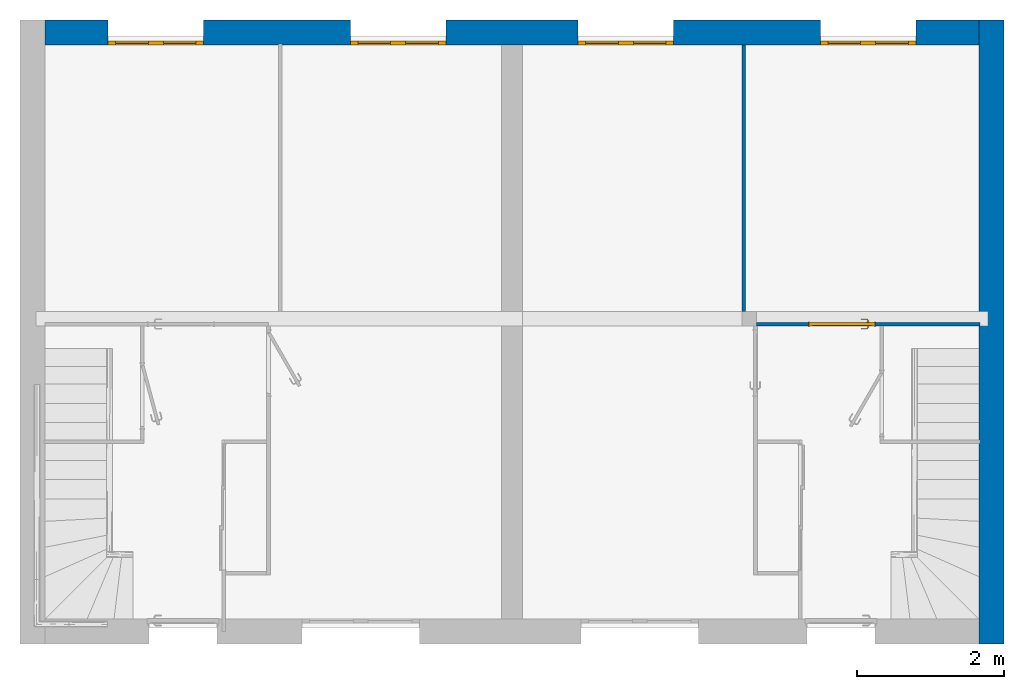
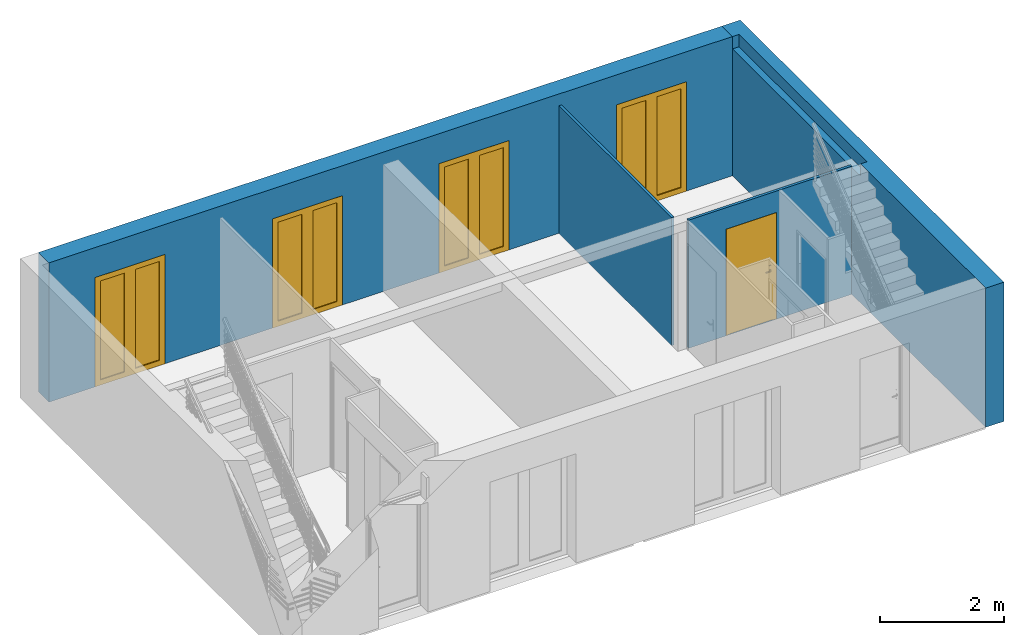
# One storey, part 5 of 9: 5 doors, 4 walls, 6 openings.
"""IFC2X3 building model written with IfcOpenShell, lengths in metres."""

from ifc_helpers import new_model, entity, si_unit, converted_unit, derived_unit, direction, frame, frame_2d, origin, origin_2d_with_axis, place, context, subcontext, project, spatial, polyline, rectangle, outline, extrude, faceted_brep, source, transform, mapped, material, material_list, layer, layer_set, layer_usage, type_object, type_shapes, element, fill, save


model = new_model("IFC2X3")

# Units and contexts
model_context = context("Model", 3, precision=1e-05, world=origin(), true_north=direction((6.12303176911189e-17, 1.0)))
body_context = subcontext(model_context, "Body", "Model", "MODEL_VIEW")
ifc_project = project(units=[si_unit("LENGTHUNIT", "METRE"), si_unit("AREAUNIT", "SQUARE_METRE"), si_unit("VOLUMEUNIT", "CUBIC_METRE"), converted_unit("PLANEANGLEUNIT", "DEGREE", entity("IfcRatioMeasure", 0.0174532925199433), si_unit("PLANEANGLEUNIT", "RADIAN"), dimensions=[0, 0, 0, 0, 0, 0, 0]), si_unit("MASSUNIT", "GRAM", prefix="KILO"), si_unit("TIMEUNIT", "SECOND"), si_unit("FREQUENCYUNIT", "HERTZ"), si_unit("THERMODYNAMICTEMPERATUREUNIT", "DEGREE_CELSIUS"), derived_unit("THERMALTRANSMITTANCEUNIT", [(si_unit("MASSUNIT", "GRAM", prefix="KILO"), 1), (si_unit("THERMODYNAMICTEMPERATUREUNIT", "KELVIN"), -1), (si_unit("TIMEUNIT", "SECOND"), -3)]), derived_unit("VOLUMETRICFLOWRATEUNIT", [(si_unit("LENGTHUNIT", "METRE"), 3), (si_unit("TIMEUNIT", "SECOND"), -1)]), si_unit("ELECTRICCURRENTUNIT", "AMPERE"), si_unit("ELECTRICVOLTAGEUNIT", "VOLT"), si_unit("POWERUNIT", "WATT"), si_unit("FORCEUNIT", "NEWTON", prefix="KILO"), si_unit("ILLUMINANCEUNIT", "LUX"), si_unit("LUMINOUSFLUXUNIT", "LUMEN"), si_unit("LUMINOUSINTENSITYUNIT", "CANDELA"), derived_unit("USERDEFINED", [(si_unit("MASSUNIT", "GRAM", prefix="KILO"), -1), (si_unit("LENGTHUNIT", "METRE"), -2), (si_unit("TIMEUNIT", "SECOND"), 3), (si_unit("LUMINOUSFLUXUNIT", "LUMEN"), 1)]), derived_unit("LINEARVELOCITYUNIT", [(si_unit("LENGTHUNIT", "METRE"), 1), (si_unit("TIMEUNIT", "SECOND"), -1)]), si_unit("PRESSUREUNIT", "PASCAL"), derived_unit("USERDEFINED", [(si_unit("LENGTHUNIT", "METRE"), -2), (si_unit("MASSUNIT", "GRAM", prefix="KILO"), 1), (si_unit("TIMEUNIT", "SECOND"), -2)])], contexts=[model_context])

# Site, building, storey
site_placement = place(None, origin())
site = spatial("IfcSite", under=ifc_project, at=site_placement, Name="Surface", CompositionType="ELEMENT")
building_placement = place(site_placement, origin())
building = spatial("IfcBuilding", under=site, at=building_placement, CompositionType="ELEMENT")
storey_placement = place(building_placement, origin())
storey = spatial("IfcBuildingStorey", under=building, at=storey_placement, Name="Rez de chaussée", CompositionType="ELEMENT", Elevation=0.0)

# Wall
ifc_material_1 = material(Name="Maçonnerie - Isolant(1)")
ifc_layer_1 = layer(ifc_material_1, 0.05)
ifc_layer_set_1 = layer_set([ifc_layer_1], Name="Mur de base:Int. plâtre 50 mm")
ifc_layer_usage_1 = layer_usage(ifc_layer_set_1, "AXIS2", "NEGATIVE", 0.025)
wall_type_1 = type_object("IfcWallType", Name="Mur de base:Int. plâtre 50 mm", PredefinedType="STANDARD", material=ifc_layer_set_1)
wall_1_placement = place(storey_placement, frame((-1.78108881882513, 1.71425578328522, -0.00999999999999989), z_axis=(0.0, 0.0, 1.0), x_axis=(0.0, 1.0, 0.0)))
element("IfcWallStandardCase", 1, at=wall_1_placement, inside=storey, type_object=wall_type_1, material=ifc_layer_usage_1, Name="Mur de base:Int. plâtre 50 mm", ObjectType="Mur de base:Int. plâtre 50 mm", context=body_context, shape_type="SweptSolid", body=[
    extrude(rectangle(XDim=3.63, YDim=0.05, at=frame_2d((1.815, 0.0), x_axis=(-1.0, 0.0))), origin(), (0.0, 0.0, 1.0), 2.52),
])

# Wall, opening, door
ifc_layer_usage_2 = layer_usage(ifc_layer_set_1, "AXIS2", "NEGATIVE", 0.025)
wall_2_placement = place(storey_placement, frame((-1.60608881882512, 1.53925578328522, -0.00999999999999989)))
wall_2 = element("IfcWallStandardCase", 2, at=wall_2_placement, inside=storey, type_object=wall_type_1, material=ifc_layer_usage_2, Name="Mur de base:Int. plâtre 50 mm", ObjectType="Mur de base:Int. plâtre 50 mm", context=body_context, shape_type="SweptSolid", body=[
    extrude(rectangle(XDim=3.03999999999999, YDim=0.05, at=frame_2d((1.52, 0.0), x_axis=(-1.0, 0.0))), origin(), (0.0, 0.0, 1.0), 2.52),
])
opening_1_placement = place(wall_2_placement, frame((0.714999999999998, -0.025, 0.00999999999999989)))
opening_1 = element("IfcOpeningElement", 3, at=opening_1_placement, cuts=wall_2, Name="Int. Simple:PP (0.83m x 2.04m):1", ObjectType="Opening", context=body_context, shape_type="SweptSolid", body=[
    extrude(rectangle(XDim=2.075, YDim=0.9, at=frame_2d((1.0375, 0.45), x_axis=(1.0, 0.0))), frame((0.0, 0.0, 0.0), z_axis=(0.0, 1.0, 0.0), x_axis=(0.0, 0.0, 1.0)), (0.0, 0.0, 1.0), 0.05),
])
ifc_material_2 = material(Name="Finition Peinture - Blanc satiné")
ifc_material_3 = material(Name="Bois - Panneau de porte")
ifc_material_4 = material(Name="Bois - Cadre de porte")
ifc_material_list_1 = material_list([ifc_material_2, ifc_material_3, ifc_material_4])
ifc_material_list_2 = material_list([ifc_material_2, ifc_material_3, ifc_material_4])
door_style_1 = type_object("IfcDoorStyle", Name="PP (0.83m x 2.04m)", ConstructionType="NOTDEFINED", OperationType="SINGLE_SWING_LEFT", ParameterTakesPrecedence=False, Sizeable=False, material=ifc_material_list_2)
shared_shape_1 = source(origin(), body_context, "Body", "Brep", [
    faceted_brep([(0.105352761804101, -0.00500000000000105, 0.866003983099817), (0.115, -0.00500000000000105, 0.870000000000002), (0.114999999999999, -0.00500000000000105, 1.08), (0.1053527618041, -0.00500000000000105, 1.08399601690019), (0.0949999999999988, -0.00500000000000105, 1.08535898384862), (0.0846472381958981, -0.00500000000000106, 1.08399601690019), (0.0749999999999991, -0.00500000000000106, 1.08), (0.0750000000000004, -0.00500000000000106, 0.870000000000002), (0.0846472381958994, -0.00500000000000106, 0.866003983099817), (0.0950000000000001, -0.00500000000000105, 0.86464101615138), (0.1053527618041, 0.0, 1.08399601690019), (0.114999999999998, 0.0, 1.08), (0.115, 0.0, 0.870000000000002), (0.105352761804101, 0.0, 0.866003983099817), (0.0950000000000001, 0.0, 0.86464101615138), (0.0846472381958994, 0.0, 0.866003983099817), (0.0749999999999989, 0.0, 0.870000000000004), (0.0749999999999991, 0.0, 1.08), (0.0846472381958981, 0.0, 1.08399601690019), (0.0949999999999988, 0.0, 1.08535898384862)], [[[0, 1, 2, 3, 4, 5, 6, 7, 8, 9]], [[10, 11, 12, 13, 14, 15, 16, 17, 18, 19]], [[16, 15, 8, 7]], [[8, 15, 14, 9]], [[14, 13, 0, 9]], [[13, 12, 1, 0]], [[2, 1, 12, 11]], [[11, 10, 3, 2]], [[3, 10, 19, 4]], [[19, 18, 5, 4]], [[18, 17, 6, 5]], [[7, 6, 17, 16]]]),
    faceted_brep([(0.105352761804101, 0.0399999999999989, 0.866003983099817), (0.115, 0.0399999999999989, 0.870000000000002), (0.114999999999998, 0.0399999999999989, 1.08), (0.105352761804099, 0.0399999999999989, 1.08399601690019), (0.0949999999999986, 0.0399999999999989, 1.08535898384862), (0.084647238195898, 0.0399999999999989, 1.08399601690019), (0.0749999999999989, 0.0399999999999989, 1.08), (0.0750000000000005, 0.0399999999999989, 0.870000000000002), (0.0846472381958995, 0.0399999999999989, 0.866003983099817), (0.0950000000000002, 0.0399999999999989, 0.86464101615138), (0.105352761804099, 0.0449999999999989, 1.08399601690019), (0.114999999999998, 0.0449999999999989, 1.08), (0.115, 0.0449999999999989, 0.870000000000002), (0.105352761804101, 0.0449999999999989, 0.866003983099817), (0.0950000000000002, 0.0449999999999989, 0.86464101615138), (0.0846472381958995, 0.0449999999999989, 0.866003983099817), (0.0749999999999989, 0.0449999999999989, 0.870000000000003), (0.0749999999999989, 0.0449999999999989, 1.08), (0.084647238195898, 0.0449999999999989, 1.08399601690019), (0.0949999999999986, 0.0449999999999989, 1.08535898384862)], [[[0, 1, 2, 3, 4, 5, 6, 7, 8, 9]], [[10, 11, 12, 13, 14, 15, 16, 17, 18, 19]], [[11, 10, 3, 2]], [[3, 10, 19, 4]], [[19, 18, 5, 4]], [[18, 17, 6, 5]], [[7, 6, 17, 16]], [[16, 15, 8, 7]], [[8, 15, 14, 9]], [[14, 13, 0, 9]], [[13, 12, 1, 0]], [[2, 1, 12, 11]]]),
    faceted_brep([(0.0929747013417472, -0.00500000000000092, 1.00778044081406), (0.0970252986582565, -0.0050000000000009, 1.00778044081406), (0.101000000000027, -0.00500000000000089, 1.00699999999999), (0.101000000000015, -0.00500000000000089, 0.993000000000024), (0.0970252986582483, -0.0050000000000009, 0.992219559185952), (0.0929747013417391, -0.00500000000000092, 0.99221955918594), (0.0889999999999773, -0.00500000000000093, 0.992999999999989), (0.0889999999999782, -0.00500000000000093, 1.007), (0.0889999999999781, -0.0326509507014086, 1.007), (0.092974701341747, -0.0310045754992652, 1.00778044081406), (0.10902358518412, -0.0470534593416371, 1.00778044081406), (0.110701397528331, -0.0430028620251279, 1.00778044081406), (0.0970252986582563, -0.0293267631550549, 1.00778044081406), (0.101000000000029, -0.0276803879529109, 1.007), (0.101000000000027, -0.0276803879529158, 0.993000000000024), (0.0970252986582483, -0.0293267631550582, 0.992219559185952), (0.110701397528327, -0.0430028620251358, 0.992219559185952), (0.109023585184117, -0.047053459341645, 0.99221955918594), (0.0929747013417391, -0.0310045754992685, 0.99221955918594), (0.0889999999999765, -0.0326509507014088, 0.992999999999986), (0.107377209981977, -0.0510281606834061, 1.007), (0.112347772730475, -0.0390281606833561, 1.007), (0.112347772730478, -0.0390281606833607, 0.993000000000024), (0.107377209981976, -0.0510281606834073, 0.992999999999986), (0.195018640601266, -0.0510281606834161, 0.992999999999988), (0.195018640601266, -0.0470534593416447, 0.99221955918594), (0.195018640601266, -0.0430028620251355, 0.992219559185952), (0.195018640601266, -0.039028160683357, 0.993000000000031), (0.195018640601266, -0.0390281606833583, 1.007), (0.195018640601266, -0.0430028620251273, 1.00778044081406), (0.195018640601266, -0.0470534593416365, 1.00778044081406), (0.195018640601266, -0.0510281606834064, 1.00699999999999), (0.147307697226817, -0.0510281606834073, 1.007), (0.152860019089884, -0.045028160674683, 1.0078786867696), (0.15368320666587, -0.039028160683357, 1.007), (0.153683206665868, -0.0390281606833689, 0.993000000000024), (0.152860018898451, -0.0450281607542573, 0.992121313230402), (0.147307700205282, -0.0510281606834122, 0.992999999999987)], [[[0, 1, 2, 3, 4, 5, 6, 7]], [[8, 9, 0, 7]], [[9, 10, 11, 12, 1, 0]], [[12, 13, 2, 1]], [[3, 2, 13, 14]], [[14, 15, 4, 3]], [[15, 16, 17, 18, 5, 4]], [[18, 19, 6, 5]], [[7, 6, 19, 8]], [[20, 10, 9, 8]], [[11, 21, 13, 12]], [[14, 13, 21, 22]], [[22, 16, 15, 14]], [[17, 23, 19, 18]], [[8, 19, 23, 20]], [[24, 25, 26, 27, 28, 29, 30, 31]], [[32, 30, 33]], [[31, 30, 32]], [[10, 20, 32]], [[33, 34, 11]], [[21, 11, 34]], [[34, 29, 28]], [[30, 29, 33]], [[29, 34, 33]], [[10, 32, 33]], [[10, 33, 11]], [[22, 21, 34, 28, 27, 35]], [[35, 26, 36]], [[37, 36, 25]], [[22, 35, 16]], [[35, 27, 26]], [[24, 37, 25]], [[23, 17, 37]], [[37, 17, 36]], [[17, 16, 36]], [[16, 35, 36]], [[25, 36, 26]], [[20, 23, 37, 24, 31, 32]]]),
    faceted_brep([(0.0929747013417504, 0.0449999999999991, 1.00778044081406), (0.0889999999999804, 0.044999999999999, 1.007), (0.0889999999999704, 0.044999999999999, 0.992999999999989), (0.0929747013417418, 0.0449999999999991, 0.99221955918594), (0.0970252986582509, 0.0449999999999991, 0.992219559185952), (0.10100000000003, 0.0449999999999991, 0.993000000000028), (0.101000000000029, 0.0449999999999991, 1.007), (0.0970252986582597, 0.0449999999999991, 1.00778044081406), (0.10100000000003, 0.067485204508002, 0.993000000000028), (0.10100000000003, 0.0674852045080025, 1.007), (0.0970252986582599, 0.0691315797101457, 1.00778044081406), (0.110838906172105, 0.0829451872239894, 1.00778044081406), (0.109161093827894, 0.0869957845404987, 1.00778044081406), (0.0929747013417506, 0.070809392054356, 1.00778044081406), (0.0889999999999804, 0.0724557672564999, 1.007), (0.0889999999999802, 0.072455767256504, 0.992999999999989), (0.0929747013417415, 0.0708093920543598, 0.99221955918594), (0.109161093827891, 0.0869957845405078, 0.99221955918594), (0.110838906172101, 0.0829451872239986, 0.992219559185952), (0.0970252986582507, 0.0691315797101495, 0.992219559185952), (0.112485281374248, 0.0789704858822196, 0.993000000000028), (0.112485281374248, 0.0789704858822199, 1.007), (0.107514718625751, 0.0909704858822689, 1.007), (0.107514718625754, 0.090970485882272, 0.992999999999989), (0.195045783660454, 0.0789704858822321, 0.993000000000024), (0.195045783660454, 0.0829451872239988, 0.992219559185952), (0.195045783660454, 0.086995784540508, 0.99221955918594), (0.195045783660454, 0.0909704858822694, 0.992999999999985), (0.195045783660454, 0.0909704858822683, 1.007), (0.195045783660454, 0.0869957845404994, 1.00778044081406), (0.195045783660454, 0.0829451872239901, 1.00778044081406), (0.195045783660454, 0.0789704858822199, 1.007), (0.153765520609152, 0.0789704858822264, 0.993000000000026), (0.153765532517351, 0.0789704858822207, 1.007), (0.152942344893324, 0.0849704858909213, 1.0078786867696), (0.147445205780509, 0.0909704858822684, 1.007), (0.147445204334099, 0.0909704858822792, 0.992999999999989), (0.152942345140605, 0.0849704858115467, 0.992121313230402)], [[[0, 1, 2, 3, 4, 5, 6, 7]], [[6, 5, 8, 9]], [[9, 10, 7, 6]], [[10, 11, 12, 13, 0, 7]], [[13, 14, 1, 0]], [[2, 1, 14, 15]], [[15, 16, 3, 2]], [[16, 17, 18, 19, 4, 3]], [[19, 8, 5, 4]], [[9, 8, 20, 21]], [[21, 11, 10, 9]], [[12, 22, 14, 13]], [[15, 14, 22, 23]], [[23, 17, 16, 15]], [[18, 20, 8, 19]], [[24, 25, 26, 27, 28, 29, 30, 31]], [[21, 20, 32, 24, 31, 33]], [[33, 30, 34]], [[35, 34, 29]], [[21, 33, 11]], [[33, 31, 30]], [[28, 35, 29]], [[22, 12, 35]], [[35, 12, 34]], [[12, 11, 34]], [[11, 33, 34]], [[29, 34, 30]], [[22, 35, 28, 27, 36, 23]], [[36, 26, 37]], [[27, 26, 36]], [[17, 23, 36]], [[37, 32, 18]], [[20, 18, 32]], [[32, 25, 24]], [[26, 25, 37]], [[25, 32, 37]], [[17, 36, 37]], [[17, 37, 18]]]),
    faceted_brep([(0.034999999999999, 0.04, 2.04), (0.865, 0.04, 2.04), (0.864999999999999, 0.04, 0.0), (0.034999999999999, 0.04, 0.0), (0.034999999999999, 0.0, 2.04), (0.034999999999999, 0.0, 0.0), (0.864999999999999, 0.0, 0.0), (0.865, 0.0, 2.04)], [[[0, 1, 2, 3]], [[4, 5, 6, 7]], [[1, 0, 4, 7]], [[2, 1, 7, 6]], [[3, 2, 6, 5]], [[0, 3, 5, 4]]]),
    faceted_brep([(0.0, 0.0, 0.0), (0.0, 0.050000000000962, 0.0), (0.0499999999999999, 0.050000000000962, 0.0), (0.0499999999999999, 0.040000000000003, 0.0), (0.0349999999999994, 0.040000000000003, 0.0), (0.0349999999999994, 0.0, 0.0), (0.0, 0.0, 2.07500000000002), (0.0, 0.050000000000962, 2.07500000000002), (0.900000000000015, 0.050000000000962, 2.07500000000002), (0.900000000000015, 0.050000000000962, 0.0), (0.85, 0.050000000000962, 0.0), (0.85, 0.050000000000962, 2.025), (0.0500000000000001, 0.050000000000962, 2.025), (0.05, 0.040000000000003, 2.025), (0.85, 0.040000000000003, 2.025), (0.85, 0.040000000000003, 0.0), (0.865, 0.040000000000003, 0.0), (0.865, 0.040000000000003, 2.04), (0.0349999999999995, 0.040000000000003, 2.04), (0.0349999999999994, 0.0, 2.04), (0.865, 0.0, 2.04), (0.865, 0.0, 0.0), (0.900000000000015, 0.0, 0.0), (0.900000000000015, 0.0, 2.07500000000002)], [[[0, 1, 2, 3, 4, 5]], [[1, 0, 6, 7]], [[2, 1, 7, 8, 9, 10, 11, 12]], [[3, 2, 12, 13]], [[4, 3, 13, 14, 15, 16, 17, 18]], [[5, 4, 18, 19]], [[0, 5, 19, 20, 21, 22, 23, 6]], [[8, 23, 22, 9]], [[22, 21, 16, 15, 10, 9]], [[14, 11, 10, 15]], [[20, 17, 16, 21]], [[7, 6, 23, 8]], [[13, 12, 11, 14]], [[19, 18, 17, 20]]]),
    faceted_brep([(0.0149999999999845, 0.050000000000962, 0.0), (-0.0150000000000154, 0.050000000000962, 0.0), (-0.0150000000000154, 0.055000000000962, 0.0), (0.0149999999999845, 0.055000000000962, 0.0), (0.0149999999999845, 0.050000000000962, 2.06000000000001), (0.884999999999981, 0.050000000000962, 2.06000000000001), (0.88499999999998, 0.050000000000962, 0.0), (0.91499999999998, 0.050000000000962, 0.0), (0.91499999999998, 0.050000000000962, 2.09000000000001), (-0.0150000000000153, 0.050000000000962, 2.09000000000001), (-0.0150000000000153, 0.055000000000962, 2.09000000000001), (0.91499999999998, 0.055000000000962, 2.09000000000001), (0.91499999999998, 0.055000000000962, 0.0), (0.88499999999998, 0.055000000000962, 0.0), (0.88499999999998, 0.055000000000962, 2.06000000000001), (0.0149999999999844, 0.055000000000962, 2.06000000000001)], [[[0, 1, 2, 3]], [[1, 0, 4, 5, 6, 7, 8, 9]], [[2, 1, 9, 10]], [[3, 2, 10, 11, 12, 13, 14, 15]], [[0, 3, 15, 4]], [[6, 13, 12, 7]], [[5, 14, 13, 6]], [[11, 8, 7, 12]], [[10, 9, 8, 11]], [[4, 15, 14, 5]]]),
    faceted_brep([(-0.0150000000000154, -0.005, 0.0), (0.0149999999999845, -0.005, 0.0), (0.0149999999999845, -0.005, 2.06000000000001), (0.884999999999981, -0.005, 2.06000000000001), (0.88499999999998, -0.005, 0.0), (0.91499999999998, -0.005, 0.0), (0.91499999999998, -0.005, 2.09000000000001), (-0.0150000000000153, -0.005, 2.09000000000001), (-0.0150000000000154, 0.0, 0.0), (-0.0150000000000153, 0.0, 2.09000000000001), (0.0149999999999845, 0.0, 0.0), (0.91499999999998, 0.0, 2.09000000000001), (0.91499999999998, 0.0, 0.0), (0.88499999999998, 0.0, 0.0), (0.88499999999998, 0.0, 2.06000000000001), (0.0149999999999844, 0.0, 2.06000000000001)], [[[0, 1, 2, 3, 4, 5, 6, 7]], [[8, 0, 7, 9]], [[10, 8, 9, 11, 12, 13, 14, 15]], [[1, 10, 15, 2]], [[3, 14, 13, 4]], [[11, 6, 5, 12]], [[9, 7, 6, 11]], [[2, 15, 14, 3]], [[4, 13, 12, 5]], [[1, 0, 8, 10]]]),
])
type_shapes(door_style_1, [shared_shape_1])
door_1_placement = place(opening_1_placement, frame((0.9, 0.0499999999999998, 0.0), z_axis=(0.0, 0.0, 1.0), x_axis=(-1.0, 0.0, 0.0)))
door_1 = element("IfcDoor", 4, at=door_1_placement, inside=storey, type_object=door_style_1, material=ifc_material_list_1, Name="Int. Simple:PP (0.83m x 2.04m)", ObjectType="PP (0.83m x 2.04m)", OverallHeight=2.075, OverallWidth=0.9, context=body_context, shape_type="MappedRepresentation", body=[
    mapped(shared_shape_1, transform((0.0, 0.0, 0.0), scale=1.0)),
])
fill(opening_1, door_1)

# Wall, opening
ifc_material_5 = material(Name="Maçonnerie - Enduit")
ifc_layer_2 = layer(ifc_material_5, 0.02)
ifc_material_6 = material(Name="Maçonnerie - Parpaing")
ifc_layer_3 = layer(ifc_material_6, 0.2)
ifc_material_7 = material(Name="Maçonnerie - Isolant")
ifc_layer_4 = layer(ifc_material_7, 0.11)
ifc_material_8 = material(Name="Maçonnerie - Isolant 1")
ifc_layer_5 = layer(ifc_material_8, 0.01)
ifc_layer_set_2 = layer_set([ifc_layer_2, ifc_layer_3, ifc_layer_4, ifc_layer_5], Name="Mur de base:Mur de base Ext. Parpaing 20 + Isolant 12")
ifc_layer_usage_3 = layer_usage(ifc_layer_set_2, "AXIS2", "NEGATIVE", 0.17)
wall_type_2 = type_object("IfcWallType", Name="Mur de base:Mur de base Ext. Parpaing 20 + Isolant 12", PredefinedType="STANDARD", material=ifc_layer_set_2)
wall_3_placement = place(storey_placement, frame((1.59391118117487, 5.68425578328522, 0.0), z_axis=(0.0, 0.0, 1.0), x_axis=(0.0, -1.0, 0.0)))
wall_3 = element("IfcWallStandardCase", 5, at=wall_3_placement, inside=storey, type_object=wall_type_2, material=ifc_layer_usage_3, Name="Mur de base:Mur de base Ext. Parpaing 20 + Isolant 12", ObjectType="Mur de base:Mur de base Ext. Parpaing 20 + Isolant 12", context=body_context, shape_type="SweptSolid", body=[
    extrude(rectangle(XDim=8.50000000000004, YDim=0.34, at=frame_2d((4.25000000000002, 0.0), x_axis=(-1.0, 0.0))), origin(), (0.0, 0.0, 1.0), 2.74),
])
opening_2_placement = place(wall_3_placement, frame((8.50000000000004, -0.17, 2.498)))
element("IfcOpeningElement", 6, at=opening_2_placement, cuts=wall_3, Name="Mur de base:Mur de base Ext. Parpaing 20 + Isolant 12", ObjectType="Recess", context=body_context, shape_type="Brep", body=[
    faceted_brep([(-4.03171265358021, 0.0, 8.91925297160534), (-4.03171265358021, 0.12, 8.91925297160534), (-8.16, 0.12, 8.91925297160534), (-8.16, 0.0, 8.91925297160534), (-4.03171265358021, 0.0, 0.0), (-8.16, 0.0, 0.0), (-8.16, 0.12, 0.0), (-4.03171265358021, 0.12, 0.0), (-4.03171265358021, 0.12, 0.242000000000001), (-4.03171265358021, 0.0, 0.242000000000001), (-8.16, 0.12, 0.242000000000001), (-8.16, 0.12, 9.16125297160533), (-8.16, 0.34, 9.16125297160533), (-8.16, 0.34, 0.242000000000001), (0.0, 0.0, 0.242000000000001), (0.0, 0.0, 9.16125297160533), (-4.03171265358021, 0.0, 9.16125297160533), (0.0, 0.34, 9.16125297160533), (-4.03171265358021, 0.12, 9.16125297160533), (0.0, 0.34, 0.242000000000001)], [[[0, 1, 2, 3]], [[4, 5, 6, 7]], [[7, 8, 9, 4]], [[6, 10, 8, 7]], [[2, 11, 12, 13, 10, 6, 5, 3]], [[3, 5, 4, 9, 14, 15, 16, 0]], [[15, 17, 12, 11, 18, 16]], [[9, 8, 10, 13, 19, 14]], [[14, 19, 17, 15]], [[18, 1, 0, 16]], [[17, 19, 13, 12]], [[2, 1, 18, 11]]]),
])

# Wall, openings, doors
ifc_layer_usage_4 = layer_usage(ifc_layer_set_2, "AXIS2", "NEGATIVE", 0.17)
wall_4_placement = place(storey_placement, frame((-11.2960888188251, 5.51425578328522, 0.0)))
wall_4 = element("IfcWallStandardCase", 7, at=wall_4_placement, inside=storey, type_object=wall_type_2, material=ifc_layer_usage_4, Name="Mur de base:Mur de base Ext. Parpaing 20 + Isolant 12", ObjectType="Mur de base:Mur de base Ext. Parpaing 20 + Isolant 12", context=body_context, shape_type="SweptSolid", body=[
    extrude(rectangle(XDim=12.72, YDim=0.340000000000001, at=frame_2d((6.35999999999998, 0.0), x_axis=(-1.0, 0.0))), origin(), (0.0, 0.0, 1.0), 2.74),
])
opening_3_placement = place(wall_4_placement, frame((5.46, 0.169999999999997, 0.0)))
opening_3 = element("IfcOpeningElement", 8, at=opening_3_placement, cuts=wall_4, Name="Double-Glass 1_no trim:PF 1.30 x 2.15:1", ObjectType="Opening", context=body_context, shape_type="SweptSolid", body=[
    extrude(rectangle(XDim=1.3, YDim=2.15, at=frame_2d((1.075, 0.65), x_axis=(0.0, 1.0))), frame((0.0, 0.0, 0.0), z_axis=(0.0, -1.0, 0.0), x_axis=(0.0, 0.0, 1.0)), (0.0, 0.0, 1.0), 0.34),
])
opening_4_placement = place(wall_4_placement, frame((11.86, 0.169999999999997, 0.0)))
opening_4 = element("IfcOpeningElement", 9, at=opening_4_placement, cuts=wall_4, Name="Double-Glass 1_no trim:PF 1.30 x 2.15:1", ObjectType="Opening", context=body_context, shape_type="SweptSolid", body=[
    extrude(rectangle(XDim=1.3, YDim=2.15, at=frame_2d((1.075, 0.65), x_axis=(0.0, 1.0))), frame((0.0, 0.0, 0.0), z_axis=(0.0, -1.0, 0.0), x_axis=(0.0, 0.0, 1.0)), (0.0, 0.0, 1.0), 0.34),
])
opening_5_placement = place(wall_4_placement, frame((8.55999999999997, 0.169999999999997, 0.0)))
opening_5 = element("IfcOpeningElement", 10, at=opening_5_placement, cuts=wall_4, Name="Double-Glass 1_no trim:PF 1.30 x 2.15:1", ObjectType="Opening", context=body_context, shape_type="SweptSolid", body=[
    extrude(rectangle(XDim=1.3, YDim=2.15, at=frame_2d((1.075, 0.65), x_axis=(0.0, 1.0))), frame((0.0, 0.0, 0.0), z_axis=(0.0, -1.0, 0.0), x_axis=(0.0, 0.0, 1.0)), (0.0, 0.0, 1.0), 0.34),
])
opening_6_placement = place(wall_4_placement, frame((2.16, 0.170000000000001, 0.0)))
opening_6 = element("IfcOpeningElement", 11, at=opening_6_placement, cuts=wall_4, Name="Double-Glass 1_no trim:PF 1.30 x 2.15:1", ObjectType="Opening", context=body_context, shape_type="SweptSolid", body=[
    extrude(rectangle(XDim=1.3, YDim=2.15, at=frame_2d((1.075, 0.65), x_axis=(0.0, -1.0))), frame((0.0, 0.0, 0.0), z_axis=(0.0, -1.0, 0.0), x_axis=(0.0, 0.0, 1.0)), (0.0, 0.0, 1.0), 0.34),
])
ifc_material_9 = material(Name="Glass")
ifc_material_10 = material(Name="PVC - Blanc")
ifc_material_list_3 = material_list([ifc_material_9, ifc_material_10])
ifc_material_list_4 = material_list([ifc_material_9, ifc_material_10])
door_style_2 = type_object("IfcDoorStyle", Name="PF 1.30 x 2.15", ConstructionType="NOTDEFINED", OperationType="DOUBLE_DOOR_SINGLE_SWING", ParameterTakesPrecedence=False, Sizeable=False, material=ifc_material_list_4)
shared_shape_2 = source(origin(), body_context, "Body", "SweptSolid", [
    extrude(rectangle(XDim=0.00714374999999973, YDim=0.4468, at=frame_2d((0.0, -2.77555756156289e-17), x_axis=(1.0, 0.0))), frame((0.975, 0.318171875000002, 0.1016), z_axis=(0.0, 0.0, 1.0), x_axis=(0.0, 1.0, 0.0)), (0.0, 0.0, 1.0), 1.9468),
    extrude(rectangle(XDim=0.00714374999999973, YDim=0.4468, at=origin_2d_with_axis()), frame((0.325000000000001, 0.318171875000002, 0.1016), z_axis=(0.0, 0.0, 1.0), x_axis=(0.0, 1.0, 0.0)), (0.0, 0.0, 1.0), 1.9468),
    extrude(outline(polyline([(-1.075, -0.650000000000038), (1.075, -0.650000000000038), (1.075, 0.650000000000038), (-1.075, 0.650000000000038), (-1.075, -0.650000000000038)]), holes=[polyline([(-0.973399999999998, 0.101600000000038), (-0.973399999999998, 0.548400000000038), (0.973399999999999, 0.548400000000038), (0.973399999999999, 0.101600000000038), (-0.973399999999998, 0.101600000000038)]), polyline([(-0.973399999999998, -0.548399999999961), (-0.973399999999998, -0.101599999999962), (0.973399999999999, -0.101599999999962), (0.973399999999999, -0.548399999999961), (-0.973399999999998, -0.548399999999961)])]), frame((0.650000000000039, 0.289200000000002, 1.075), z_axis=(0.0, 1.0, 0.0), x_axis=(0.0, 0.0, -1.0)), (0.0, 0.0, 1.0), 0.0508),
])
type_shapes(door_style_2, [shared_shape_2])
door_2_placement = place(opening_3_placement, frame((0.0, 0.0, 0.0), z_axis=(0.0, 0.0, 1.0), x_axis=(-1.0, 0.0, 0.0)))
door_2 = element("IfcDoor", 12, at=door_2_placement, inside=storey, type_object=door_style_2, material=ifc_material_list_3, Name="Double-Glass 1_no trim:PF 1.30 x 2.15", ObjectType="PF 1.30 x 2.15", OverallHeight=2.15, OverallWidth=1.3, context=body_context, shape_type="MappedRepresentation", body=[
    mapped(shared_shape_2, transform((0.0, 0.0, 0.0), scale=1.0)),
])
fill(opening_3, door_2)
ifc_material_list_5 = material_list([ifc_material_9, ifc_material_10])
door_3_placement = place(opening_4_placement, frame((0.0, 0.0, 0.0), z_axis=(0.0, 0.0, 1.0), x_axis=(-1.0, 0.0, 0.0)))
door_3 = element("IfcDoor", 13, at=door_3_placement, inside=storey, type_object=door_style_2, material=ifc_material_list_5, Name="Double-Glass 1_no trim:PF 1.30 x 2.15", ObjectType="PF 1.30 x 2.15", OverallHeight=2.15, OverallWidth=1.3, context=body_context, shape_type="MappedRepresentation", body=[
    mapped(shared_shape_2, transform((0.0, 0.0, 0.0), scale=1.0)),
])
fill(opening_4, door_3)
ifc_material_list_6 = material_list([ifc_material_9, ifc_material_10])
door_4_placement = place(opening_5_placement, frame((0.0, 0.0, 0.0), z_axis=(0.0, 0.0, 1.0), x_axis=(-1.0, 0.0, 0.0)))
door_4 = element("IfcDoor", 14, at=door_4_placement, inside=storey, type_object=door_style_2, material=ifc_material_list_6, Name="Double-Glass 1_no trim:PF 1.30 x 2.15", ObjectType="PF 1.30 x 2.15", OverallHeight=2.15, OverallWidth=1.3, context=body_context, shape_type="MappedRepresentation", body=[
    mapped(shared_shape_2, transform((0.0, 0.0, 0.0), scale=1.0)),
])
fill(opening_5, door_4)
ifc_material_list_7 = material_list([ifc_material_9, ifc_material_10])
ifc_material_list_8 = material_list([ifc_material_9, ifc_material_10])
door_style_3 = type_object("IfcDoorStyle", Name="PF 1.30 x 2.15", ConstructionType="NOTDEFINED", OperationType="DOUBLE_DOOR_SINGLE_SWING", ParameterTakesPrecedence=False, Sizeable=False, material=ifc_material_list_8)
shared_shape_3 = source(origin(), body_context, "Body", "SweptSolid", [
    extrude(rectangle(XDim=0.4468, YDim=0.00714374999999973, at=frame_2d((2.77555756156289e-17, 0.0), x_axis=(1.0, 0.0))), frame((0.325000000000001, 0.322934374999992, 0.1016)), (0.0, 0.0, 1.0), 1.9468),
    extrude(rectangle(XDim=0.4468, YDim=0.00714374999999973, at=origin_2d_with_axis()), frame((0.975000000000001, 0.322934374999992, 0.1016)), (0.0, 0.0, 1.0), 1.9468),
    extrude(outline(polyline([(-1.075, -0.650000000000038), (1.075, -0.650000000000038), (1.075, 0.650000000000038), (-1.075, 0.650000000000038), (-1.075, -0.650000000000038)]), holes=[polyline([(-0.973399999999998, 0.101600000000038), (-0.973399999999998, 0.548400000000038), (0.973399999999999, 0.548400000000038), (0.973399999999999, 0.101600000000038), (-0.973399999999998, 0.101600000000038)]), polyline([(-0.973399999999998, -0.548399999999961), (-0.973399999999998, -0.101599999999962), (0.973399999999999, -0.101599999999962), (0.973399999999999, -0.548399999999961), (-0.973399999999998, -0.548399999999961)])]), frame((0.649999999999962, 0.344762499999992, 1.075), z_axis=(0.0, -1.0, 0.0), x_axis=(0.0, 0.0, -1.0)), (0.0, 0.0, 1.0), 0.0508),
])
type_shapes(door_style_3, [shared_shape_3])
door_5_placement = place(opening_6_placement, frame((0.0, 0.00476249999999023, 0.0), z_axis=(0.0, 0.0, 1.0), x_axis=(-1.0, 0.0, 0.0)))
door_5 = element("IfcDoor", 15, at=door_5_placement, inside=storey, type_object=door_style_3, material=ifc_material_list_7, Name="Double-Glass 1_no trim:PF 1.30 x 2.15", ObjectType="PF 1.30 x 2.15", OverallHeight=2.15, OverallWidth=1.3, context=body_context, shape_type="MappedRepresentation", body=[
    mapped(shared_shape_3, transform((0.0, 0.0, 0.0), scale=1.0)),
])
fill(opening_6, door_5)

save(model, "model.ifc")
